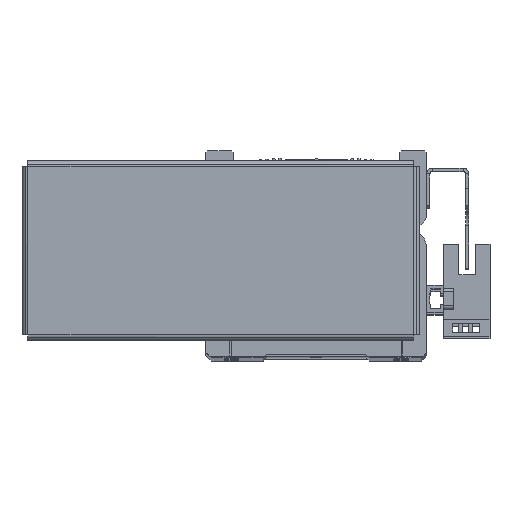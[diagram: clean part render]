
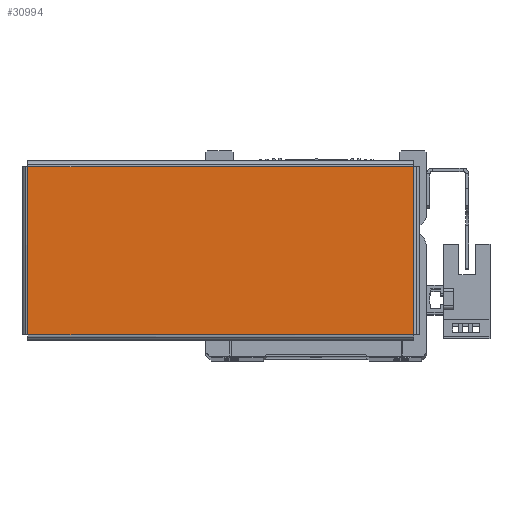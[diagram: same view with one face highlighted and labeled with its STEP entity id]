
A CAD part, top view. The second image highlights one B-rep face of the part: STEP entity #30994.
In plain terms, the highlighted planar face has unit normal (0, 0, 1) as drawn and (0, 0, -1) by its records, which use the part's own axes.
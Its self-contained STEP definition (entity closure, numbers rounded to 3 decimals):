
#6173 = AXIS2_PLACEMENT_3D ( 'NONE', #15735, #15725, #15738 ) ;
#14326 = FACE_OUTER_BOUND ( 'NONE', #36039, .T. ) ;
#15725 = DIRECTION ( 'NONE',  ( 0., 0., 1. ) ) ;
#15734 = PLANE ( 'NONE',  #6173 ) ;
#15735 = CARTESIAN_POINT ( 'NONE',  ( 0., 0., -1. ) ) ;
#15738 = DIRECTION ( 'NONE',  ( 1., 0., 0. ) ) ;
#23459 = VECTOR ( 'NONE', #24348, 1000. ) ;
#23475 = LINE ( 'NONE', #24353, #23459 ) ;
#23592 = LINE ( 'NONE', #24463, #23601 ) ;
#23599 = LINE ( 'NONE', #24562, #23617 ) ;
#23601 = VECTOR ( 'NONE', #24462, 1000. ) ;
#23617 = VECTOR ( 'NONE', #24571, 1000. ) ;
#23640 = VECTOR ( 'NONE', #24639, 1000. ) ;
#23677 = LINE ( 'NONE', #24653, #23640 ) ;
#24348 = DIRECTION ( 'NONE',  ( 1., 0., 0. ) ) ;
#24353 = CARTESIAN_POINT ( 'NONE',  ( -56.893, 24.763, -1. ) ) ;
#24462 = DIRECTION ( 'NONE',  ( 0., 1., 0. ) ) ;
#24463 = CARTESIAN_POINT ( 'NONE',  ( -56.863, -24.793, -1. ) ) ;
#24562 = CARTESIAN_POINT ( 'NONE',  ( 56.863, 24.793, -1. ) ) ;
#24571 = DIRECTION ( 'NONE',  ( 0., -1., 0. ) ) ;
#24639 = DIRECTION ( 'NONE',  ( -1., 0., 0. ) ) ;
#24653 = CARTESIAN_POINT ( 'NONE',  ( 56.893, -24.763, -1. ) ) ;
#29148 = CARTESIAN_POINT ( 'NONE',  ( 56.863, -24.763, -1. ) ) ;
#29173 = CARTESIAN_POINT ( 'NONE',  ( -56.863, -24.763, -1. ) ) ;
#30994 = ADVANCED_FACE ( 'NONE', ( #14326 ), #15734, .F. ) ;
#33170 = EDGE_CURVE ( 'NONE', #39687, #39677, #23475, .T. ) ;
#33262 = EDGE_CURVE ( 'NONE', #39619, #39687, #23592, .T. ) ;
#33328 = EDGE_CURVE ( 'NONE', #39677, #39600, #23599, .T. ) ;
#33401 = EDGE_CURVE ( 'NONE', #39600, #39619, #23677, .T. ) ;
#36039 = EDGE_LOOP ( 'NONE', ( #42363, #42375, #42277, #42369 ) ) ;
#36225 = CARTESIAN_POINT ( 'NONE',  ( 56.863, 24.763, -1. ) ) ;
#36286 = CARTESIAN_POINT ( 'NONE',  ( -56.863, 24.763, -1. ) ) ;
#39600 = VERTEX_POINT ( 'NONE', #29148 ) ;
#39619 = VERTEX_POINT ( 'NONE', #29173 ) ;
#39677 = VERTEX_POINT ( 'NONE', #36225 ) ;
#39687 = VERTEX_POINT ( 'NONE', #36286 ) ;
#42277 = ORIENTED_EDGE ( 'NONE', *, *, #33262, .T. ) ;
#42363 = ORIENTED_EDGE ( 'NONE', *, *, #33328, .T. ) ;
#42369 = ORIENTED_EDGE ( 'NONE', *, *, #33170, .T. ) ;
#42375 = ORIENTED_EDGE ( 'NONE', *, *, #33401, .T. ) ;
